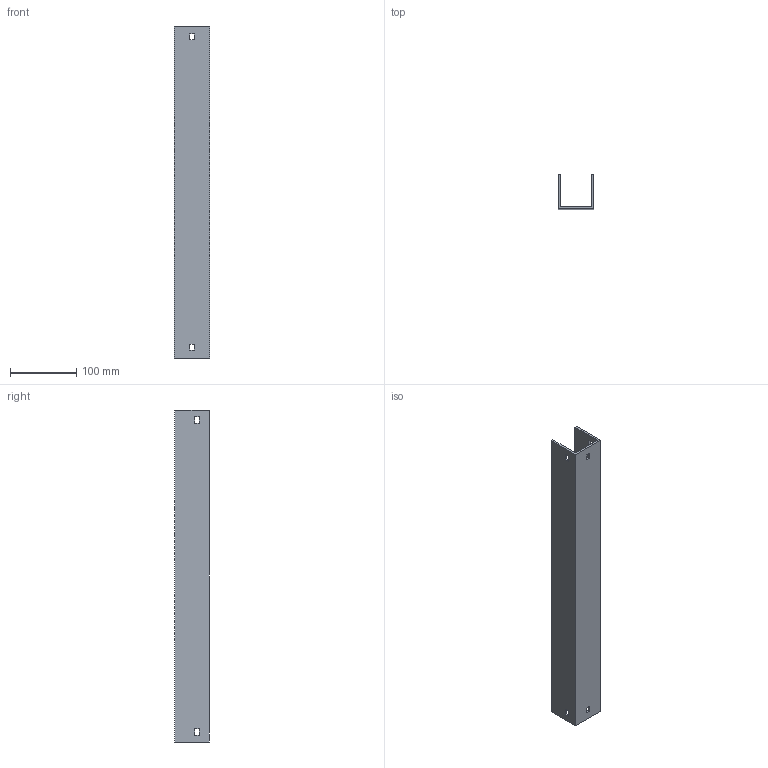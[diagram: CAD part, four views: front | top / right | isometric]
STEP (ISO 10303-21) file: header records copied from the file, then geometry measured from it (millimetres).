
FILE_DESCRIPTION (( 'STEP AP214' ), '1' );
FILE_NAME ('03F7B050.step', '2025-02-21T13:24:30', ( '' ), ( '' ), 'SwSTEP 2.0', 'SolidWorks 2023', '' );
FILE_SCHEMA (( 'AUTOMOTIVE_DESIGN' ));
Length unit declared in the file: millimetre
Products named in the file (1): 03F7B050
Bounding box: 54 x 52 x 500 mm (x, y, z)
Volume: 262860.5 mm3; surface area: 155456 mm2
Topology: 1 solids, 1 shells, 34 faces, 96 edges, 64 vertices
Faces by surface type: plane 34
Entity records: 1127 total; most frequent: CARTESIAN_POINT 195, ORIENTED_EDGE 192, DIRECTION 166, LINE 96, VECTOR 96, EDGE_CURVE 96, VERTEX_POINT 64, EDGE_LOOP 46
